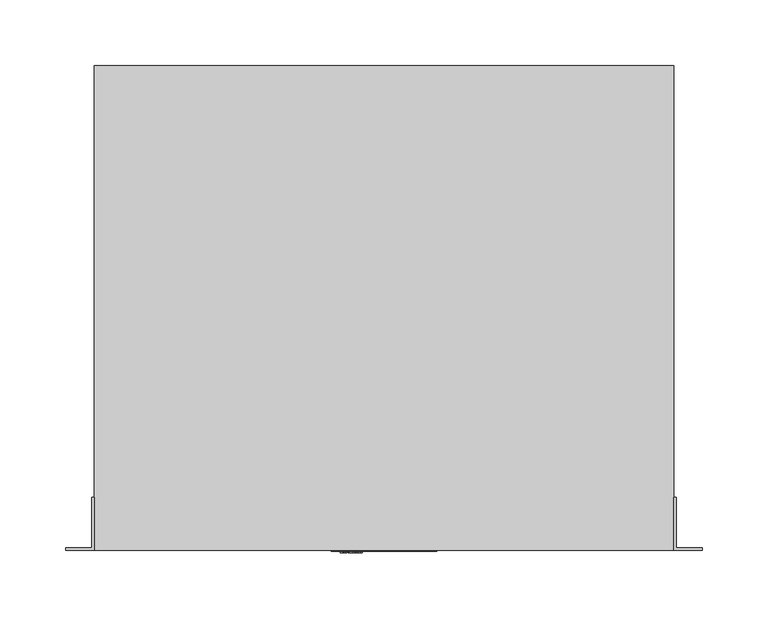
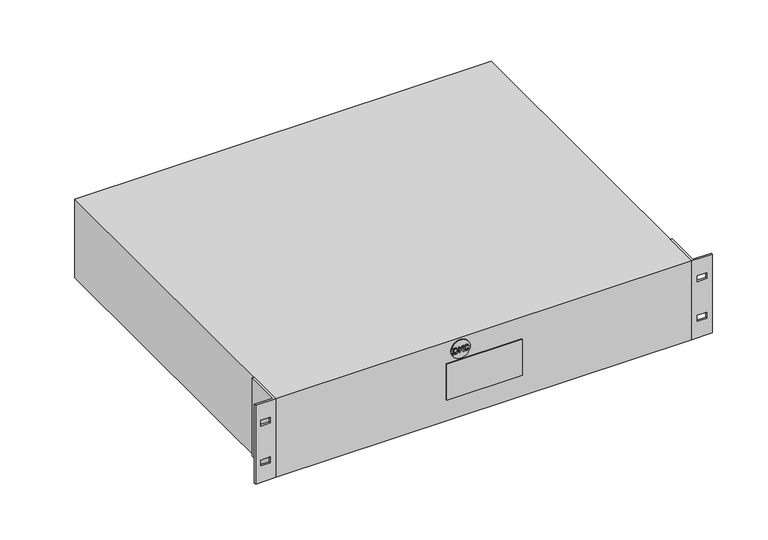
"""IFC4 building model written with IfcOpenShell, lengths in millimetres: proxy geometry, НВО_КНС_ОнлайнИБПSmallRackmount_DKC : 1000 ВА, без АКБ."""

from ifc_helpers import new_model, si_unit, point, frame, frame_2d, origin, origin_with_axes, place, context, project, spatial, polyline, circle_curve, trimmed, segment, composite_curve, outline, extrude, faceted_brep, source, transform, mapped, element, save


def electrical_equipment_4dbac31c(model_context):
    return source(origin(), model_context, "Body", "SolidModel", [
        extrude(outline(polyline([(73.0, -33.1463789), (73.0, -30.967046), (73.103007, -29.9980448), (73.9520786, -28.7273804), (74.829845, -28.3153525), (76.0460629, -28.154956), (77.4793312, -28.391872), (78.5094008, -29.1055631), (78.9405585, -29.9914229), (79.0273786, -31.0671099), (79.0273786, -33.1463789), (73.0, -33.1463789)]), holes=[polyline([(73.7534223, -32.3929566), (78.2739563, -32.3929566), (78.2739563, -31.0803536), (78.153291, -30.0120243), (77.4852173, -29.2299072), (76.0578351, -28.9083783), (74.9181367, -29.0724537), (73.8623154, -30.0900153), (73.7534223, -31.0597522), (73.7534223, -32.3929566)])]), frame((0.0, -2.0, 0.0), z_axis=(0.0, 1.0, 0.0), x_axis=(0.0, 0.0, 1.0)), (0.0, 0.0, 1.0), 6.0),
        extrude(outline(polyline([(73.0, -26.7422891), (75.0719114, -26.365578), (76.0401768, -25.3502237), (73.0, -23.0487539), (73.0, -22.1275774), (76.5493255, -24.816059), (79.0273786, -22.2217552), (79.0273786, -23.2753692), (76.076965, -26.365578), (79.0273786, -27.1190003), (73.0, -26.7422891)])), frame((0.0, -2.0, 0.0), z_axis=(0.0, 1.0, 0.0), x_axis=(0.0, 0.0, 1.0)), (0.0, 0.0, 1.0), 6.0),
        extrude(outline(polyline([(75.1425447, -17.3245101), (74.0330126, -17.963889), (73.6592445, -19.1168311), (73.9336845, -20.1564657), (74.7628905, -20.8642706), (76.0607782, -21.0916217), (77.180611, -20.8995873), (78.0458694, -20.2337209), (78.3681341, -19.055027), (78.0775073, -18.0367296), (77.3307068, -16.6652655), (78.652139, -17.5165445), (79.1215564, -19.0255964), (78.7588248, -20.4735799), (77.6971173, -21.4881985), (76.0593067, -21.845044), (74.4479835, -21.5294013), (73.3016632, -20.6096963), (72.9058222, -19.0417832), (73.4289504, -17.4643052), (75.1425447, -17.3245101)])), frame((0.0, -2.0, 0.0), z_axis=(0.0, 1.0, 0.0), x_axis=(0.0, 0.0, 1.0)), (0.0, 0.0, 1.0), 6.0),
        extrude(outline(composite_curve([segment(trimmed(circle_curve(frame_2d((76.0, -25.0)), 10.0), [point((76.0, -35.0))], [point((76.0, -15.0))], False, "CARTESIAN"), True, "CONTINUOUS"), segment(trimmed(circle_curve(frame_2d((76.0, -25.0)), 10.0), [point((76.0, -15.0))], [point((76.0, -35.0))], False, "CARTESIAN"), True, "CONTINUOUS")], self_intersect=False)), frame((0.0, -1.0, 0.0), z_axis=(0.0, 1.0, 0.0), x_axis=(0.0, 0.0, 1.0)), (0.0, 0.0, 1.0), 10.0),
        faceted_brep([(220.0, 0.0, 88.0), (241.5, 0.0, 88.0), (241.5, 2.0, 88.0), (222.0, 2.0, 88.0), (222.0, 40.0, 88.0), (220.0, 40.0, 88.0), (220.0, 0.0, 0.0), (220.0, 40.0, 0.0), (222.0, 40.0, 0.0), (222.0, 2.0, 0.0), (241.5, 2.0, 0.0), (241.5, 0.0, 0.0), (225.75, 0.0, 25.025), (235.75, 0.0, 25.025), (235.75, 0.0, 18.525), (225.75, 0.0, 18.525), (225.75, 0.0, 69.475), (235.75, 0.0, 69.475), (235.75, 0.0, 62.975), (225.75, 0.0, 62.975), (235.75, 2.0, 25.025), (225.75, 2.0, 25.025), (225.75, 2.0, 18.525), (235.75, 2.0, 18.525), (235.75, 2.0, 69.475), (225.75, 2.0, 69.475), (225.75, 2.0, 62.975), (235.75, 2.0, 62.975)], [[[0, 1, 2, 3, 4, 5]], [[6, 7, 8, 9, 10, 11]], [[1, 0, 6, 11], [12, 13, 14, 15], [16, 17, 18, 19]], [[2, 1, 11, 10]], [[3, 2, 10, 9], [20, 21, 22, 23], [24, 25, 26, 27]], [[4, 3, 9, 8]], [[5, 4, 8, 7]], [[0, 5, 7, 6]], [[16, 25, 24, 17]], [[25, 16, 19, 26]], [[26, 19, 18, 27]], [[17, 24, 27, 18]], [[12, 21, 20, 13]], [[21, 12, 15, 22]], [[22, 15, 14, 23]], [[13, 20, 23, 14]]]),
        faceted_brep([(-222.0, 2.0, 88.0), (-241.5, 2.0, 88.0), (-241.5, 0.0, 88.0), (-220.0, 0.0, 88.0), (-220.0, 40.0, 88.0), (-222.0, 40.0, 88.0), (-222.0, 2.0, 0.0), (-222.0, 40.0, 0.0), (-220.0, 40.0, 0.0), (-220.0, 0.0, 0.0), (-241.5, 0.0, 0.0), (-241.5, 2.0, 0.0), (-225.75, 2.0, 69.475), (-235.75, 2.0, 69.475), (-235.75, 2.0, 62.975), (-225.75, 2.0, 62.975), (-225.75, 2.0, 25.025), (-235.75, 2.0, 25.025), (-235.75, 2.0, 18.525), (-225.75, 2.0, 18.525), (-235.75, 0.0, 69.475), (-225.75, 0.0, 69.475), (-225.75, 0.0, 62.975), (-235.75, 0.0, 62.975), (-235.75, 0.0, 25.025), (-225.75, 0.0, 25.025), (-225.75, 0.0, 18.525), (-235.75, 0.0, 18.525)], [[[0, 1, 2, 3, 4, 5]], [[6, 7, 8, 9, 10, 11]], [[1, 0, 6, 11], [12, 13, 14, 15], [16, 17, 18, 19]], [[2, 1, 11, 10]], [[3, 2, 10, 9], [20, 21, 22, 23], [24, 25, 26, 27]], [[4, 3, 9, 8]], [[5, 4, 8, 7]], [[0, 5, 7, 6]], [[20, 13, 12, 21]], [[13, 20, 23, 14]], [[14, 23, 22, 15]], [[21, 12, 15, 22]], [[24, 17, 16, 25]], [[17, 24, 27, 18]], [[18, 27, 26, 19]], [[25, 16, 19, 26]]]),
        extrude(outline(polyline([(40.0, -1.0), (-40.0, -1.0), (-40.0, 0.0), (40.0, 0.0), (40.0, -1.0)])), frame((0.0, 0.0, 24.0), z_axis=(0.0, 0.0, 1.0), x_axis=(1.0, 0.0, 0.0)), (0.0, 0.0, 1.0), 40.0),
        extrude(outline(polyline([(220.0, 0.0), (-220.0, 0.0), (-220.0, 368.0), (220.0, 368.0), (220.0, 0.0)])), origin_with_axes(), (0.0, 0.0, 1.0), 88.0),
    ])


if __name__ == "__main__":
    model = new_model("IFC4")
    model_context = context("Model", 3, world=origin())
    ifc_project = project(units=[si_unit("LENGTHUNIT", "METRE", prefix="MILLI")], contexts=[model_context])
    site = spatial("IfcSite", under=ifc_project)
    building = spatial("IfcBuilding", under=site)
    placement = place(None, origin())
    electrical_equipment_shape = electrical_equipment_4dbac31c(model_context)
    element("IfcBuildingElementProxy", 1, Name="НВО_КНС_ОнлайнИБПSmallRackmount_DKC : 1000 ВА, без АКБ", ObjectType="НВО_КНС_ОнлайнИБПSmallRackmount_DKC : 1000 ВА, без АКБ", at=placement, inside=building, context=model_context, shape_type="MappedRepresentation", body=[
        mapped(electrical_equipment_shape, transform((0.0, 0.0, 0.0), x_axis=(1.0, 0.0, 0.0), y_axis=(0.0, 1.0, 0.0), z_axis=(0.0, 0.0, 1.0))),
    ])
    save(model, "model.ifc")
